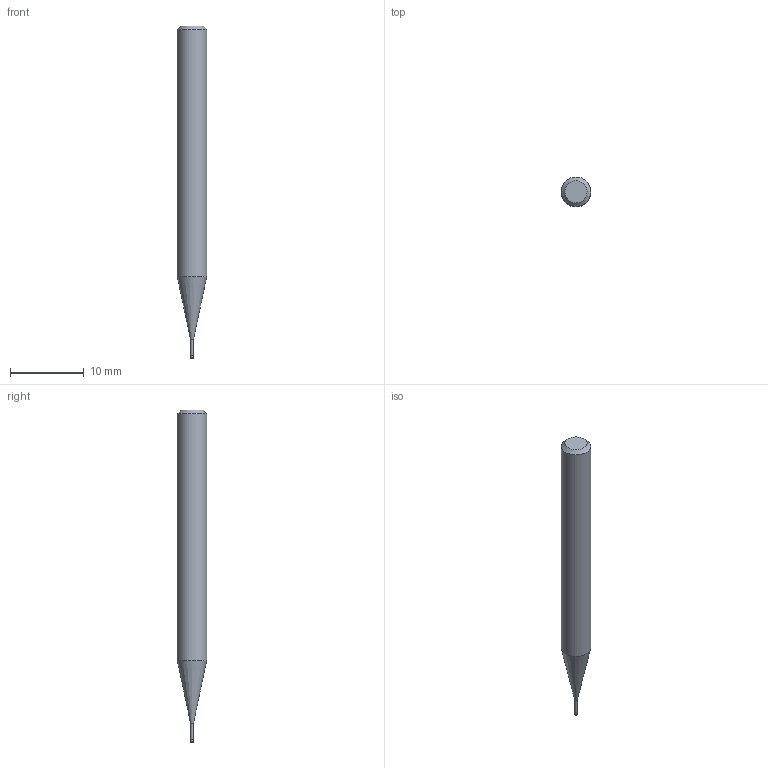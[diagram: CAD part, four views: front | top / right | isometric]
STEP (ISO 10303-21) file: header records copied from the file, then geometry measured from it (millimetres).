
FILE_DESCRIPTION((''),'2;1');
FILE_NAME('C:\Users\nsx150\AppData\Local\Temp\Mastercam 2021\3SYKECWX22\TEMP.step','2021-04-22T09:44:45',(''),(''),'STEP Write','Mastercam 2021 ... CNC Software, Inc.','');
FILE_SCHEMA(('AUTOMOTIVE_DESIGN'));
Length unit declared in the file: millimetre
Products named in the file (1): None
Bounding box: 4 x 4 x 45 mm (x, y, z)
Volume: 465 mm3; surface area: 498.5 mm2
Topology: 2 solids, 2 shells, 10 faces, 14 edges, 8 vertices
Faces by surface type: plane 4, cylinder 3, cone 2, torus 1
Full cylindrical faces by diameter (mm): 0.37 x1, 0.4 x1, 4 x1
Entity records: 232 total; most frequent: DIRECTION 40, CARTESIAN_POINT 28, AXIS2_PLACEMENT_3D 20, ORIENTED_EDGE 16, EDGE_LOOP 16, STYLED_ITEM 13, ADVANCED_FACE 10, FACE_BOUND 10
